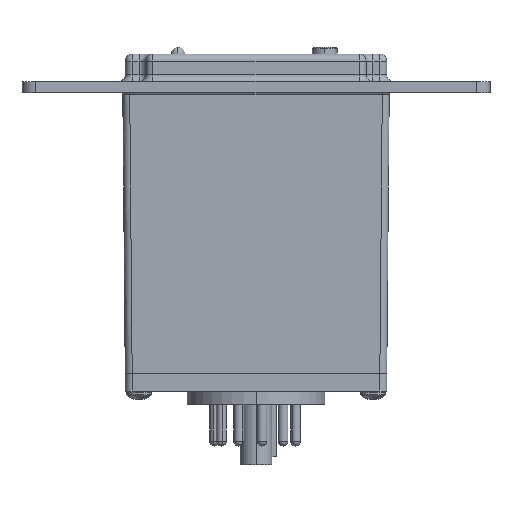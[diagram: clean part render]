
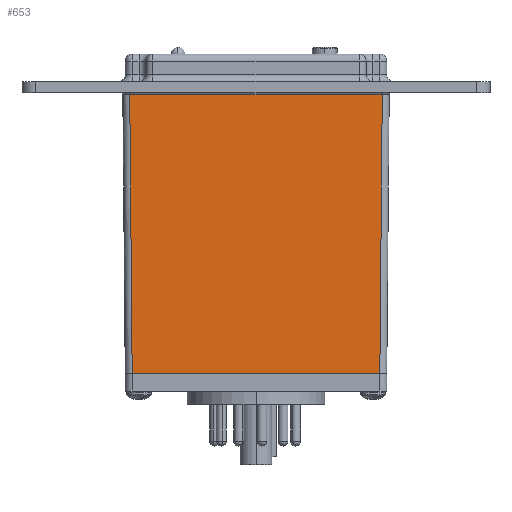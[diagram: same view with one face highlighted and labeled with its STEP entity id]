
A CAD part, left-side view. The second image highlights one B-rep face of the part: STEP entity #653.
In plain terms, the highlighted planar face has unit normal (-1, 0, -0.009).
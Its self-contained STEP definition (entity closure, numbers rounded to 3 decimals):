
#653 = ADVANCED_FACE ( 'NONE', ( #37280 ), #44126, .T. ) ;
#734 = DIRECTION ( 'NONE',  ( -1., 0., -0.009 ) ) ;
#1000 = VERTEX_POINT ( 'NONE', #41629 ) ;
#2043 = VERTEX_POINT ( 'NONE', #18688 ) ;
#2715 = LINE ( 'NONE', #16566, #5098 ) ;
#4868 = LINE ( 'NONE', #11874, #16393 ) ;
#5098 = VECTOR ( 'NONE', #27580, 1000. ) ;
#7107 = DIRECTION ( 'NONE',  ( 0.009, -0.009, -1. ) ) ;
#8788 = VECTOR ( 'NONE', #37982, 1000. ) ;
#9053 = DIRECTION ( 'NONE',  ( 0., 1., 0. ) ) ;
#11874 = CARTESIAN_POINT ( 'NONE',  ( -22.786, 29.128, 64.266 ) ) ;
#11966 = CARTESIAN_POINT ( 'NONE',  ( -22.225, 30.162, 0. ) ) ;
#13921 = EDGE_LOOP ( 'NONE', ( #23648, #30209, #38158, #30423 ) ) ;
#14350 = EDGE_CURVE ( 'NONE', #39625, #1000, #2715, .T. ) ;
#14985 = CARTESIAN_POINT ( 'NONE',  ( -22.225, 28.562, 0. ) ) ;
#16393 = VECTOR ( 'NONE', #9053, 1000. ) ;
#16566 = CARTESIAN_POINT ( 'NONE',  ( -22.221, -28.558, -0.512 ) ) ;
#16917 = LINE ( 'NONE', #23274, #8788 ) ;
#18688 = CARTESIAN_POINT ( 'NONE',  ( -22.786, 29.123, 64.266 ) ) ;
#23274 = CARTESIAN_POINT ( 'NONE',  ( -22.225, 30.162, 0. ) ) ;
#23648 = ORIENTED_EDGE ( 'NONE', *, *, #14350, .T. ) ;
#23715 = VECTOR ( 'NONE', #7107, 1000. ) ;
#27580 = DIRECTION ( 'NONE',  ( -0.009, -0.009, 1. ) ) ;
#30209 = ORIENTED_EDGE ( 'NONE', *, *, #35912, .T. ) ;
#30423 = ORIENTED_EDGE ( 'NONE', *, *, #33809, .T. ) ;
#30885 = CARTESIAN_POINT ( 'NONE',  ( -22.225, -28.562, 0. ) ) ;
#31056 = LINE ( 'NONE', #35260, #23715 ) ;
#32539 = AXIS2_PLACEMENT_3D ( 'NONE', #11966, #734, #40581 ) ;
#32744 = EDGE_CURVE ( 'NONE', #2043, #41400, #31056, .T. ) ;
#33809 = EDGE_CURVE ( 'NONE', #41400, #39625, #16917, .T. ) ;
#35260 = CARTESIAN_POINT ( 'NONE',  ( -22.225, 28.562, 0.014 ) ) ;
#35912 = EDGE_CURVE ( 'NONE', #1000, #2043, #4868, .T. ) ;
#37280 = FACE_OUTER_BOUND ( 'NONE', #13921, .T. ) ;
#37982 = DIRECTION ( 'NONE',  ( 0., -1., 0. ) ) ;
#38158 = ORIENTED_EDGE ( 'NONE', *, *, #32744, .T. ) ;
#39625 = VERTEX_POINT ( 'NONE', #30885 ) ;
#40581 = DIRECTION ( 'NONE',  ( -0.009, 0., 1. ) ) ;
#41400 = VERTEX_POINT ( 'NONE', #14985 ) ;
#41629 = CARTESIAN_POINT ( 'NONE',  ( -22.786, -29.123, 64.266 ) ) ;
#44126 = PLANE ( 'NONE',  #32539 ) ;
